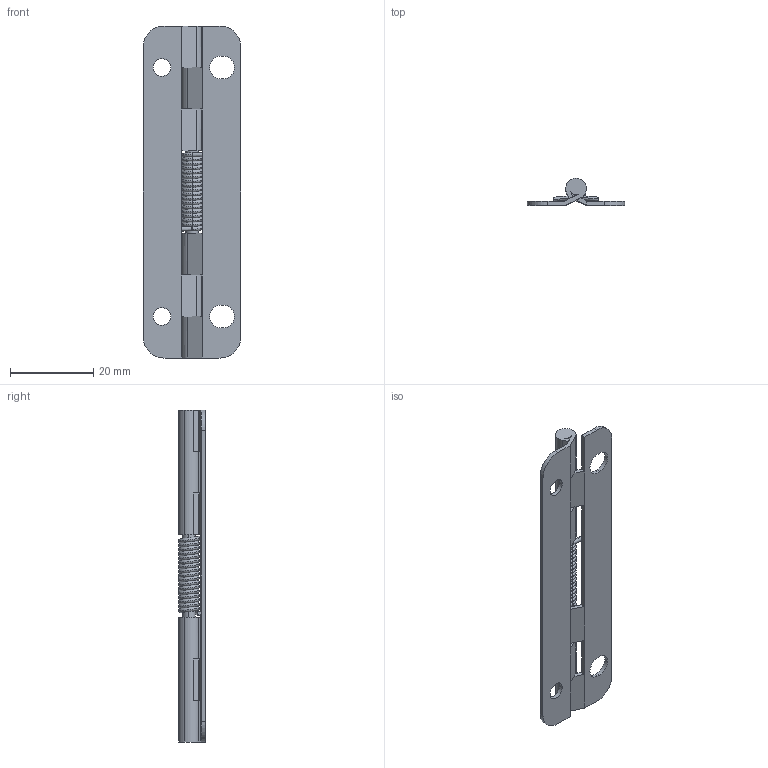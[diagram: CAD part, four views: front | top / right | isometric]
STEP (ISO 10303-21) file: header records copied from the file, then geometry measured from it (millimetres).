
FILE_DESCRIPTION(('STEP AP203'),'1');
FILE_NAME(' ',' ',('TraceParts'),('TraceParts S.A.'),'XStep 1.0',' ',' ');
FILE_SCHEMA(('CONFIG_CONTROL_DESIGN'));
Length unit declared in the file: millimetre
Products named in the file (2): 1; 2
Bounding box: 23.5 x 6.5 x 80 mm (x, y, z)
Volume: 2998.8 mm3; surface area: 5622.7 mm2
Topology: 2 solids, 2 shells, 175 faces, 519 edges, 332 vertices
Faces by surface type: plane 74, torus 72, cylinder 29
Entity records: 6115 total; most frequent: DIRECTION 1175, ORIENTED_EDGE 1038, CARTESIAN_POINT 1028, EDGE_CURVE 519, AXIS2_PLACEMENT_3D 479, VERTEX_POINT 332, CIRCLE 302, LINE 217
